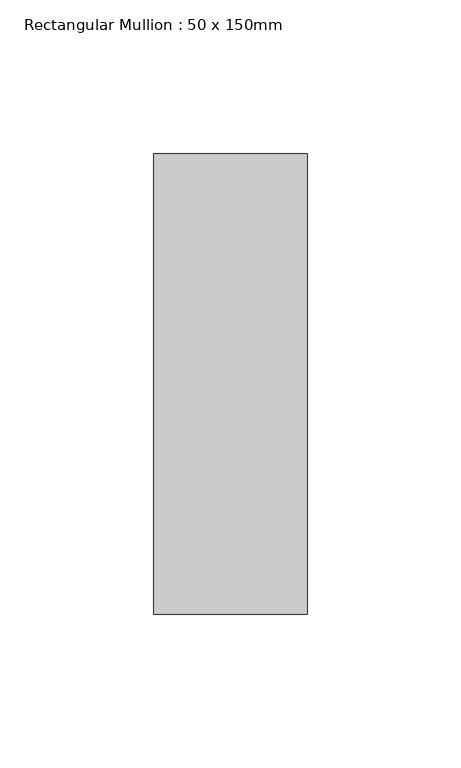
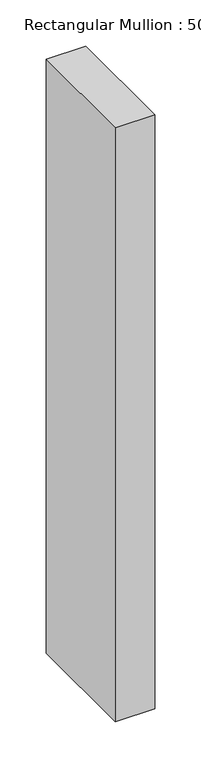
"""IFC4 building model written with IfcOpenShell, lengths in millimetres: member geometry, Rectangular Mullion : 50 x 150mm."""

from ifc_helpers import new_model, si_unit, frame, origin, place, context, project, spatial, polyline, outline, extrude, source, transform, mapped, element, save


def rectangular_mullion_50_x_150mm_cae2f493(model_context):
    return source(origin(), model_context, "Body", "SweptSolid", [
        extrude(outline(polyline([(0.0, 75.0), (0.0, -75.0), (-50.0, -75.0), (-50.0, 75.0), (0.0, 75.0)])), frame((0.0, 0.0, -788.3333332), z_axis=(0.0, 0.0, 1.0), x_axis=(1.0, 0.0, 0.0)), (0.0, 0.0, 1.0), 788.3333332),
    ])


if __name__ == "__main__":
    model = new_model("IFC4")
    model_context = context("Model", 3, world=origin())
    ifc_project = project(units=[si_unit("LENGTHUNIT", "METRE", prefix="MILLI")], contexts=[model_context])
    site = spatial("IfcSite", under=ifc_project)
    building = spatial("IfcBuilding", under=site)
    placement = place(None, origin())
    rectangular_mullion_50_x_150mm_shape = rectangular_mullion_50_x_150mm_cae2f493(model_context)
    element("IfcMember", 1, ObjectType="Rectangular Mullion : 50 x 150mm", at=placement, inside=building, context=model_context, shape_type="MappedRepresentation", body=[
        mapped(rectangular_mullion_50_x_150mm_shape, transform((0.0, 0.0, 0.0), x_axis=(1.0, 0.0, 0.0), y_axis=(0.0, 1.0, 0.0), z_axis=(0.0, 0.0, 1.0))),
    ])
    save(model, "model.ifc")
